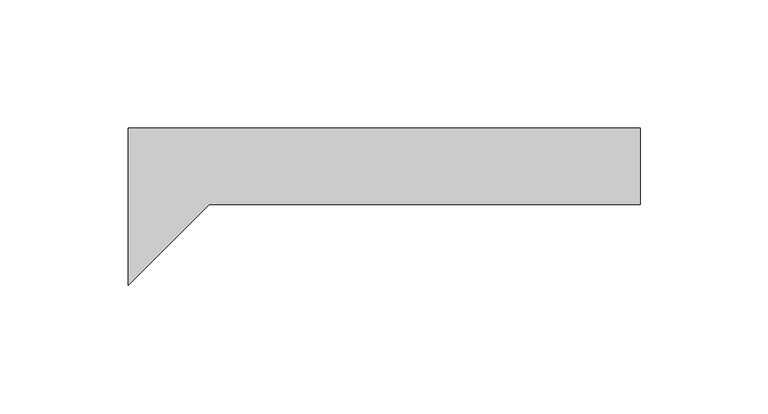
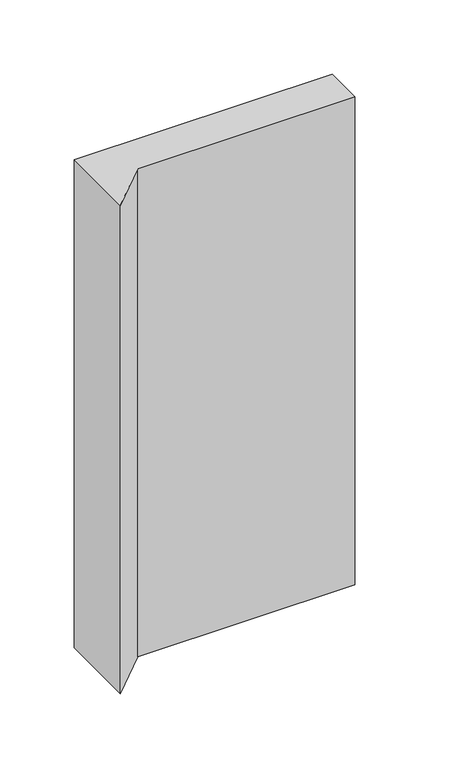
"""IFC4 building model written with IfcOpenShell, lengths in millimetres: plate geometry, ATELIERS 3S_EPURE CDB 200_VERTICAL : AZURO."""

from ifc_helpers import new_model, si_unit, origin, origin_with_axes, place, context, project, spatial, polyline, outline, extrude, source, transform, mapped, element, save


def plate_c8fac7ec(model_context):
    return source(origin(), model_context, "Body", "SweptSolid", [
        extrude(outline(polyline([(99.9999998, -29.9980469), (-68.292885, -29.9980469), (-100.0000002, -61.705162), (-100.0000002, 0.0), (99.9999998, 0.0), (99.9999998, -29.9980469)])), origin_with_axes(), (0.0, 0.0, 1.0), 400.0),
    ])


if __name__ == "__main__":
    model = new_model("IFC4")
    model_context = context("Model", 3, world=origin())
    ifc_project = project(units=[si_unit("LENGTHUNIT", "METRE", prefix="MILLI")], contexts=[model_context])
    site = spatial("IfcSite", under=ifc_project)
    building = spatial("IfcBuilding", under=site)
    placement = place(None, origin())
    plate_shape = plate_c8fac7ec(model_context)
    element("IfcPlate", 1, ObjectType="ATELIERS 3S_EPURE CDB 200_VERTICAL : AZURO", at=placement, inside=building, context=model_context, shape_type="MappedRepresentation", body=[
        mapped(plate_shape, transform((0.0, 0.0, 0.0), x_axis=(1.0, 0.0, 0.0), y_axis=(0.0, 1.0, 0.0), z_axis=(0.0, 0.0, 1.0))),
    ])
    save(model, "model.ifc")
